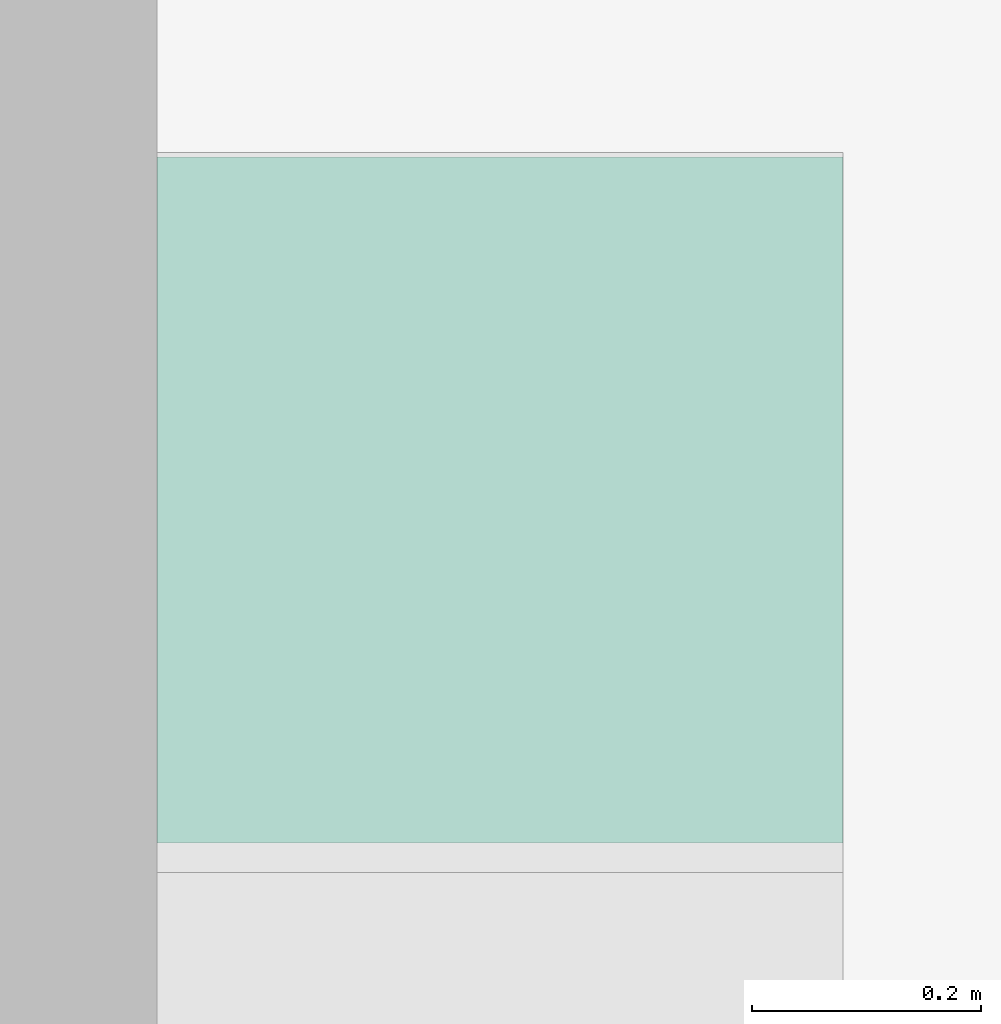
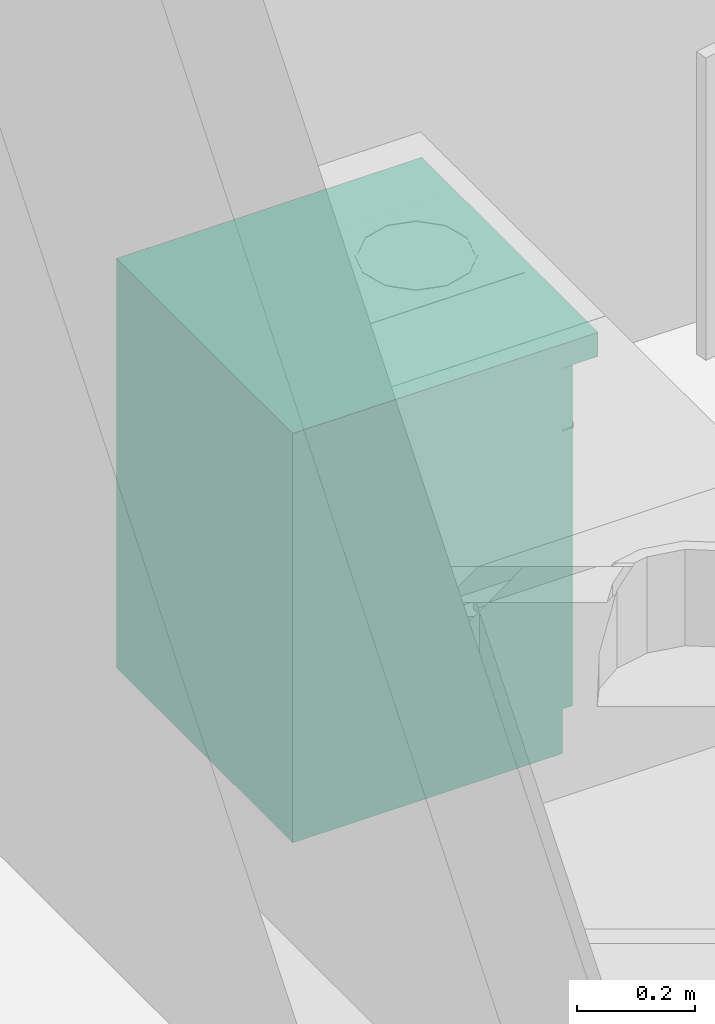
# One storey, part 66 of 172: 1 flow terminal.
"""IFC2X3 building model written with IfcOpenShell, lengths in millimetres."""

from ifc_helpers import new_model, entity, si_unit, converted_unit, money_unit, direction, frame, origin_with_axes, place, context, subcontext, project, spatial, faceted_brep, material, material_list, type_object, element, save


model = new_model("IFC2X3")

# Units and contexts
model_context = context("Model", 3, precision=1e-05, world=origin_with_axes(), true_north=direction((0.0, 1.0)))
body_context = subcontext(model_context, "Body", "Model", "MODEL_VIEW")
ifc_project = project(units=[si_unit("LENGTHUNIT", "METRE", prefix="MILLI"), si_unit("AREAUNIT", "SQUARE_METRE"), si_unit("VOLUMEUNIT", "CUBIC_METRE"), converted_unit("PLANEANGLEUNIT", "DEGREE", entity("IfcPlaneAngleMeasure", 0.0174532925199), si_unit("PLANEANGLEUNIT", "RADIAN"), dimensions=[0, 0, 0, 0, 0, 0, 0]), si_unit("SOLIDANGLEUNIT", "STERADIAN"), money_unit("USD"), converted_unit("TIMEUNIT", "Year", entity("IfcTimeMeasure", 31556926.0), si_unit("TIMEUNIT", "SECOND"), dimensions=[0, 0, 0, 0, 0, 0, 0]), si_unit("MASSUNIT", "GRAM"), si_unit("THERMODYNAMICTEMPERATUREUNIT", "DEGREE_CELSIUS"), si_unit("LUMINOUSINTENSITYUNIT", "LUMEN")], contexts=[model_context])

# Site, building, storey
site_placement = place(None, origin_with_axes())
site = spatial("IfcSite", under=ifc_project, at=site_placement, Name="Site", CompositionType="ELEMENT")
building_placement = place(site_placement, origin_with_axes())
building = spatial("IfcBuilding", under=site, at=building_placement, Name="Building", CompositionType="ELEMENT")
storey_placement = place(building_placement, frame((0.0, 0.0, 3200.0), z_axis=(0.0, 0.0, 1.0), x_axis=(1.0, 0.0, 0.0)))
storey = spatial("IfcBuildingStorey", under=building, at=storey_placement, Name="3KORRUS", CompositionType="ELEMENT", Elevation=3200.0)

# Flow terminal
ifc_material = material(Name="Background")
ifc_material_list = material_list([ifc_material])
sanitary_terminal_type = type_object("IfcSanitaryTerminalType", Name="Cabinet Base Single Door 19", PredefinedType="SINK")
flow_terminal_placement = place(storey_placement, frame((-17240.2967033, -6678.60004298, 0.0), z_axis=(0.0, 0.0, 1.0), x_axis=(0.0, 1.0, 0.0)))
element("IfcFlowTerminal", 1, at=flow_terminal_placement, inside=storey, type_object=sanitary_terminal_type, material=ifc_material_list, Name="FU - 007", context=body_context, shape_type="Brep", body=[
    faceted_brep([(-20.0, 70.0, 660.0), (-20.0, 70.0, 680.0), (-580.0, 70.0, 680.0), (-580.0, 70.0, 660.0), (-20.0, 580.0, 660.0), (-20.0, 580.0, 680.0), (-580.0, 580.0, 680.0), (-580.0, 580.0, 660.0)], [[[0, 1, 2, 3]], [[4, 5, 1, 0]], [[1, 5, 6, 2]], [[3, 2, 6, 7]], [[0, 3, 7, 4]], [[7, 6, 5, 4]]]),
    faceted_brep([(0.0, 70.0, 0.0), (0.0, 70.0, 90.0), (-600.0, 70.0, 90.0), (-600.0, 70.0, 0.0), (0.0, 600.0, 0.0), (0.0, 600.0, 90.0), (-600.0, 600.0, 90.0), (-600.0, 600.0, 0.0)], [[[0, 1, 2, 3]], [[4, 5, 1, 0]], [[1, 5, 6, 2]], [[3, 2, 6, 7]], [[0, 3, 7, 4]], [[7, 6, 5, 4]]]),
    faceted_brep([(0.0, 70.0, 780.0), (0.0, 70.0, 800.0), (-20.0, 70.0, 800.0), (-20.0, 70.0, 780.0), (0.0, 600.0, 780.0), (0.0, 600.0, 800.0), (-20.0, 600.0, 800.0), (-580.0, 600.0, 800.0), (-600.0, 600.0, 800.0), (-600.0, 70.0, 800.0), (-580.0, 70.0, 800.0), (-580.0, 70.0, 780.0), (-600.0, 70.0, 780.0), (-600.0, 600.0, 780.0), (-580.0, 600.0, 780.0), (-20.0, 600.0, 780.0)], [[[0, 1, 2, 3]], [[4, 5, 1, 0]], [[1, 5, 6, 7, 8, 9, 10, 2]], [[3, 2, 10, 11]], [[0, 3, 11, 12, 13, 14, 15, 4]], [[15, 6, 5, 4]], [[14, 7, 6, 15]], [[13, 8, 7, 14]], [[12, 9, 8, 13]], [[11, 10, 9, 12]]]),
    faceted_brep([(0.0, 70.0, 90.0), (0.0, 70.0, 110.0), (-20.0, 70.0, 110.0), (-20.0, 70.0, 90.0), (0.0, 600.0, 90.0), (0.0, 600.0, 110.0), (-20.0, 600.0, 110.0), (-580.0, 600.0, 110.0), (-600.0, 600.0, 110.0), (-600.0, 70.0, 110.0), (-580.0, 70.0, 110.0), (-580.0, 70.0, 90.0), (-600.0, 70.0, 90.0), (-600.0, 600.0, 90.0), (-580.0, 600.0, 90.0), (-20.0, 600.0, 90.0)], [[[0, 1, 2, 3]], [[4, 5, 1, 0]], [[1, 5, 6, 7, 8, 9, 10, 2]], [[3, 2, 10, 11]], [[0, 3, 11, 12, 13, 14, 15, 4]], [[15, 6, 5, 4]], [[14, 7, 6, 15]], [[13, 8, 7, 14]], [[12, 9, 8, 13]], [[11, 10, 9, 12]]]),
    faceted_brep([(0.0, 70.0, 110.0), (0.0, 70.0, 780.0), (-20.0, 70.0, 780.0), (-20.0, 70.0, 110.0), (0.0, 600.0, 110.0), (0.0, 600.0, 780.0), (-600.0, 600.0, 780.0), (-600.0, 70.0, 780.0), (-580.0, 70.0, 780.0), (-580.0, 580.0, 780.0), (-20.0, 580.0, 780.0), (-20.0, 580.0, 110.0), (-580.0, 580.0, 110.0), (-580.0, 70.0, 110.0), (-600.0, 70.0, 110.0), (-600.0, 600.0, 110.0)], [[[0, 1, 2, 3]], [[4, 5, 1, 0]], [[1, 5, 6, 7, 8, 9, 10, 2]], [[3, 2, 10, 11]], [[0, 3, 11, 12, 13, 14, 15, 4]], [[15, 6, 5, 4]], [[14, 7, 6, 15]], [[13, 8, 7, 14]], [[12, 9, 8, 13]], [[11, 10, 9, 12]]]),
    faceted_brep([(-580.0, 70.0, 360.0), (-580.0, 70.0, 380.0), (-580.0, 580.0, 380.0), (-580.0, 580.0, 360.0), (-20.0, 70.0, 360.0), (-20.0, 70.0, 380.0), (-20.0, 580.0, 380.0), (-20.0, 580.0, 360.0)], [[[0, 1, 2, 3]], [[4, 5, 1, 0]], [[1, 5, 6, 2]], [[3, 2, 6, 7]], [[0, 3, 7, 4]], [[7, 6, 5, 4]]]),
    faceted_brep([(0.0, 0.0, 800.0), (0.0, 0.0, 850.0), (-600.0, 0.0, 850.0), (-600.0, 0.0, 800.0), (0.0, 600.0, 800.0), (0.0, 600.0, 850.0), (-600.0, 600.0, 850.0), (-600.0, 600.0, 800.0)], [[[0, 1, 2, 3]], [[4, 5, 1, 0]], [[1, 5, 6, 2]], [[3, 2, 6, 7]], [[0, 3, 7, 4]], [[7, 6, 5, 4]]]),
    faceted_brep([(-1.5, 70.0, 671.5), (-1.5, 50.0, 671.5), (-598.5, 50.0, 671.5), (-598.5, 70.0, 671.5), (-1.5, 70.0, 798.5), (-1.5, 50.0, 798.5), (-598.5, 50.0, 798.5), (-598.5, 70.0, 798.5)], [[[0, 1, 2, 3]], [[4, 5, 1, 0]], [[1, 5, 6, 2]], [[3, 2, 6, 7]], [[0, 3, 7, 4]], [[7, 6, 5, 4]]]),
    faceted_brep([(-295.408, 50.0, 723.913), (-300.0, 50.0, 723.0), (-304.592, 50.0, 723.913), (-308.485, 50.0, 726.515), (-311.087, 50.0, 730.408), (-312.0, 50.0, 735.0), (-311.087, 50.0, 739.592), (-308.485, 50.0, 743.485), (-304.592, 50.0, 746.087), (-300.0, 50.0, 747.0), (-295.408, 50.0, 746.087), (-291.515, 50.0, 743.485), (-288.913, 50.0, 739.592), (-288.0, 50.0, 735.0), (-288.913, 50.0, 730.408), (-291.515, 50.0, 726.515), (-295.408, 25.0, 723.913), (-300.0, 25.0, 723.0), (-304.592, 25.0, 723.913), (-308.485, 25.0, 726.515), (-311.087, 25.0, 730.408), (-312.0, 25.0, 735.0), (-311.087, 25.0, 739.592), (-308.485, 25.0, 743.485), (-304.592, 25.0, 746.087), (-300.0, 25.0, 747.0), (-295.408, 25.0, 746.087), (-291.515, 25.0, 743.485), (-288.913, 25.0, 739.592), (-288.0, 25.0, 735.0), (-288.913, 25.0, 730.408), (-291.515, 25.0, 726.515)], [[[0, 1, 2, 3, 4, 5, 6, 7, 8, 9, 10, 11, 12, 13, 14, 15]], [[0, 16, 17, 1]], [[1, 17, 18, 2]], [[2, 18, 19, 3]], [[3, 19, 20, 4]], [[4, 20, 21, 5]], [[5, 21, 22, 6]], [[6, 22, 23, 7]], [[7, 23, 24, 8]], [[8, 24, 25, 9]], [[9, 25, 26, 10]], [[10, 26, 27, 11]], [[11, 27, 28, 12]], [[12, 28, 29, 13]], [[13, 29, 30, 14]], [[14, 30, 31, 15]], [[15, 31, 16, 0]], [[16, 31, 30, 29, 28, 27, 26, 25, 24, 23, 22, 21, 20, 19, 18, 17]]]),
    faceted_brep([(-1.5, 70.0, 91.5), (-1.5, 50.0, 91.5), (-598.5, 50.0, 91.5), (-598.5, 70.0, 91.5), (-1.5, 70.0, 668.5), (-1.5, 50.0, 668.5), (-598.5, 50.0, 668.5), (-598.5, 70.0, 668.5)], [[[0, 1, 2, 3]], [[4, 5, 1, 0]], [[1, 5, 6, 2]], [[3, 2, 6, 7]], [[0, 3, 7, 4]], [[7, 6, 5, 4]]]),
    faceted_brep([(-559.587, 50.0, 636.908), (-560.5, 50.0, 641.5), (-559.587, 50.0, 646.092), (-556.985, 50.0, 649.985), (-553.092, 50.0, 652.587), (-548.5, 50.0, 653.5), (-543.908, 50.0, 652.587), (-540.015, 50.0, 649.985), (-537.413, 50.0, 646.092), (-536.5, 50.0, 641.5), (-537.413, 50.0, 636.908), (-540.015, 50.0, 633.015), (-543.908, 50.0, 630.413), (-548.5, 50.0, 629.5), (-553.092, 50.0, 630.413), (-556.985, 50.0, 633.015), (-559.587, 25.0, 636.908), (-560.5, 25.0, 641.5), (-559.587, 25.0, 646.092), (-556.985, 25.0, 649.985), (-553.092, 25.0, 652.587), (-548.5, 25.0, 653.5), (-543.908, 25.0, 652.587), (-540.015, 25.0, 649.985), (-537.413, 25.0, 646.092), (-536.5, 25.0, 641.5), (-537.413, 25.0, 636.908), (-540.015, 25.0, 633.015), (-543.908, 25.0, 630.413), (-548.5, 25.0, 629.5), (-553.092, 25.0, 630.413), (-556.985, 25.0, 633.015)], [[[0, 1, 2, 3, 4, 5, 6, 7, 8, 9, 10, 11, 12, 13, 14, 15]], [[0, 16, 17, 1]], [[1, 17, 18, 2]], [[2, 18, 19, 3]], [[3, 19, 20, 4]], [[4, 20, 21, 5]], [[5, 21, 22, 6]], [[6, 22, 23, 7]], [[7, 23, 24, 8]], [[8, 24, 25, 9]], [[9, 25, 26, 10]], [[10, 26, 27, 11]], [[11, 27, 28, 12]], [[12, 28, 29, 13]], [[13, 29, 30, 14]], [[14, 30, 31, 15]], [[15, 31, 16, 0]], [[16, 31, 30, 29, 28, 27, 26, 25, 24, 23, 22, 21, 20, 19, 18, 17]]]),
])

save(model, "model.ifc")
